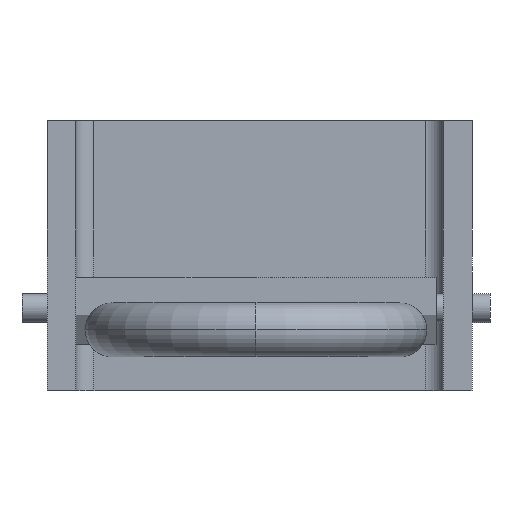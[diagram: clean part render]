
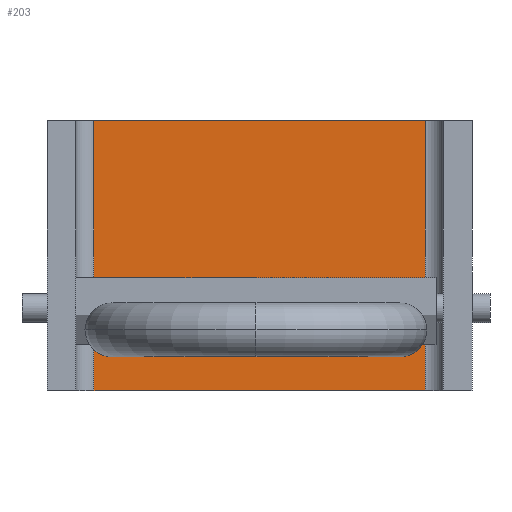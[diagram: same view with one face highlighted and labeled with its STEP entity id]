
A CAD part, left-side view. The second image highlights one B-rep face of the part: STEP entity #203.
In plain terms, the highlighted planar face has unit normal (-1, 0, 0).
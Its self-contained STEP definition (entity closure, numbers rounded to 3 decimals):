
#52 = VERTEX_POINT ( 'NONE', #1148 ) ;
#71 = CARTESIAN_POINT ( 'NONE',  ( -8., 110., 75. ) ) ;
#120 = VECTOR ( 'NONE', #1559, 1000. ) ;
#203 = ADVANCED_FACE ( 'NONE', ( #981 ), #925, .F. ) ;
#285 = CARTESIAN_POINT ( 'NONE',  ( -8., 105., 0. ) ) ;
#296 = VERTEX_POINT ( 'NONE', #648 ) ;
#315 = CARTESIAN_POINT ( 'NONE',  ( -8., 105., 0. ) ) ;
#501 = LINE ( 'NONE', #1733, #1794 ) ;
#648 = CARTESIAN_POINT ( 'NONE',  ( -8., 105., 75. ) ) ;
#734 = EDGE_LOOP ( 'NONE', ( #1359, #1172, #1454, #1147 ) ) ;
#856 = DIRECTION ( 'NONE',  ( 0., 0., -1. ) ) ;
#872 = EDGE_CURVE ( 'NONE', #296, #937, #1490, .T. ) ;
#877 = LINE ( 'NONE', #285, #1321 ) ;
#925 = PLANE ( 'NONE',  #1325 ) ;
#937 = VERTEX_POINT ( 'NONE', #1877 ) ;
#981 = FACE_OUTER_BOUND ( 'NONE', #734, .T. ) ;
#997 = LINE ( 'NONE', #1818, #1294 ) ;
#1063 = DIRECTION ( 'NONE',  ( 1., 0., 0. ) ) ;
#1106 = CARTESIAN_POINT ( 'NONE',  ( -8., 110., 75. ) ) ;
#1147 = ORIENTED_EDGE ( 'NONE', *, *, #1441, .T. ) ;
#1148 = CARTESIAN_POINT ( 'NONE',  ( -8., 13., 0. ) ) ;
#1172 = ORIENTED_EDGE ( 'NONE', *, *, #1673, .T. ) ;
#1294 = VECTOR ( 'NONE', #1339, 1000. ) ;
#1321 = VECTOR ( 'NONE', #856, 1000. ) ;
#1325 = AXIS2_PLACEMENT_3D ( 'NONE', #71, #1063, #1512 ) ;
#1339 = DIRECTION ( 'NONE',  ( 0., 0., 1. ) ) ;
#1359 = ORIENTED_EDGE ( 'NONE', *, *, #1474, .T. ) ;
#1441 = EDGE_CURVE ( 'NONE', #296, #1853, #877, .T. ) ;
#1454 = ORIENTED_EDGE ( 'NONE', *, *, #872, .F. ) ;
#1474 = EDGE_CURVE ( 'NONE', #1853, #52, #501, .T. ) ;
#1490 = LINE ( 'NONE', #1106, #120 ) ;
#1512 = DIRECTION ( 'NONE',  ( 0., 1., 0. ) ) ;
#1559 = DIRECTION ( 'NONE',  ( 0., -1., 0. ) ) ;
#1673 = EDGE_CURVE ( 'NONE', #52, #937, #997, .T. ) ;
#1674 = DIRECTION ( 'NONE',  ( 0., -1., 0. ) ) ;
#1733 = CARTESIAN_POINT ( 'NONE',  ( -8., 110., 0. ) ) ;
#1794 = VECTOR ( 'NONE', #1674, 1000. ) ;
#1818 = CARTESIAN_POINT ( 'NONE',  ( -8., 13., 75. ) ) ;
#1853 = VERTEX_POINT ( 'NONE', #315 ) ;
#1877 = CARTESIAN_POINT ( 'NONE',  ( -8., 13., 75. ) ) ;
